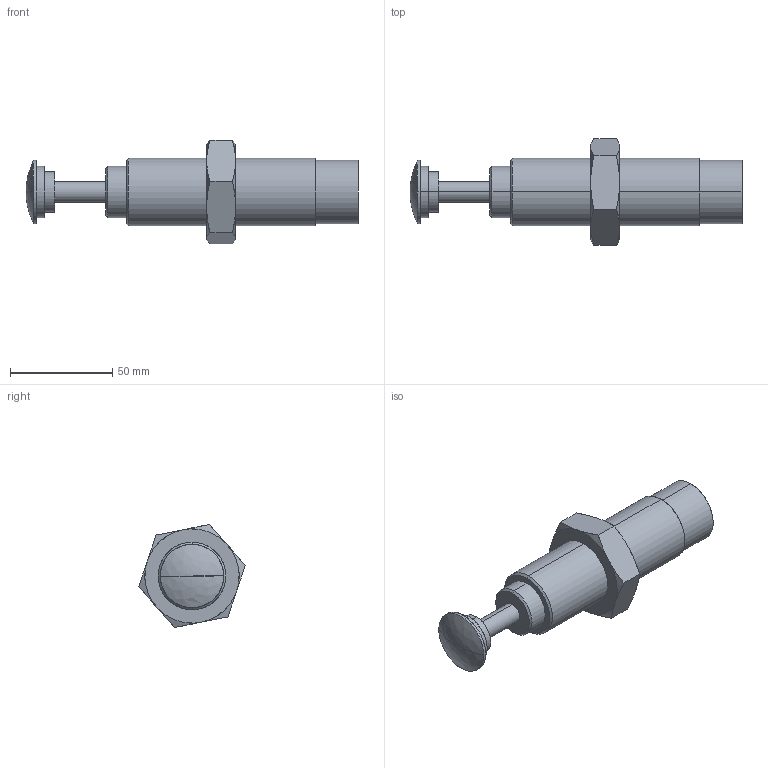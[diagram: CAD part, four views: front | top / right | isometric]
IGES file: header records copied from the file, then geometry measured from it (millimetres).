
Start section: SolidWorks IGES file using analytic representation for surfaces
Global section: file name: C:\Users\Sam Lin\Desktop\48\FSA-3325CD.IGS; native system: SolidWorks 2013; preprocessor: SolidWorks 2013; author: Sam Lin; date: 160317.152825; units: metre
Bounding box: 162 x 52.06 x 50.35 mm (x, y, z)
Surface area: 22423.2 mm2 (no closed solid volume)
Topology: 0 solids, 0 shells, 49 faces, 1084 edges, 1083 vertices
Faces by surface type: bspline 27, revolution 22
